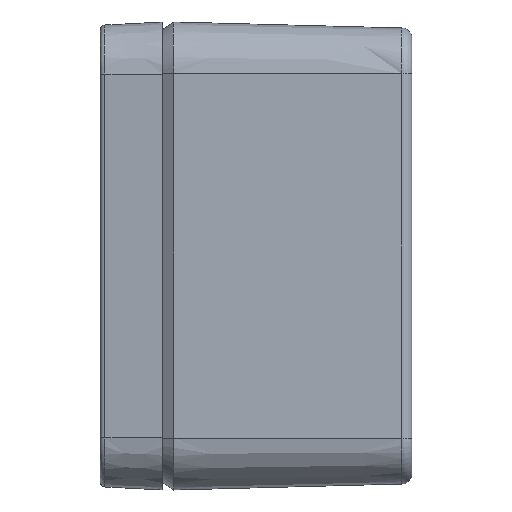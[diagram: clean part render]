
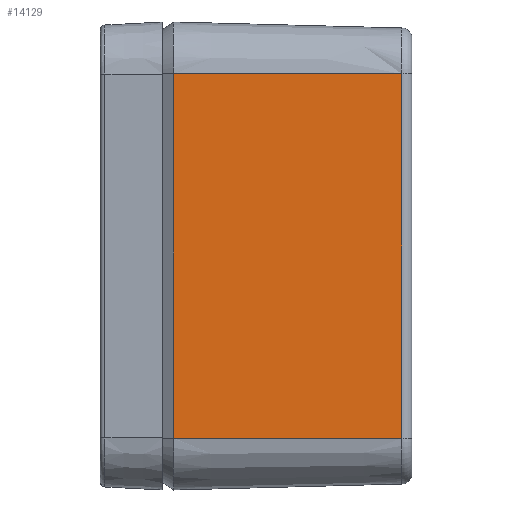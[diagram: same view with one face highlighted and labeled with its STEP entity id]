
A CAD part, left-side view. The second image highlights one B-rep face of the part: STEP entity #14129.
In plain terms, the highlighted planar face has unit normal (-1, -0.026, 0).
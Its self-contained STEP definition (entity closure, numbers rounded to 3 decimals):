
#100 = CARTESIAN_POINT ( 'NONE',  ( -25.003, 0.108, -17.505 ) ) ;
#286 = LINE ( 'NONE', #17195, #13558 ) ;
#461 = CARTESIAN_POINT ( 'NONE',  ( -25.003, 0.108, -17.505 ) ) ;
#547 = CARTESIAN_POINT ( 'NONE',  ( -24.428, -21.826, 5.836 ) ) ;
#1843 = CARTESIAN_POINT ( 'NONE',  ( -24.428, -21.826, -5.836 ) ) ;
#2074 = EDGE_LOOP ( 'NONE', ( #15920, #13915, #18259, #12802 ) ) ;
#3034 = VERTEX_POINT ( 'NONE', #100 ) ;
#3725 = CARTESIAN_POINT ( 'NONE',  ( -24.428, -21.826, -17.507 ) ) ;
#3875 = CARTESIAN_POINT ( 'NONE',  ( -24.62, -14.515, 17.507 ) ) ;
#4021 = EDGE_CURVE ( 'NONE', #4899, #8316, #4869, .T. ) ;
#4511 = DIRECTION ( 'NONE',  ( 0.026, -1., 0. ) ) ;
#4522 = DIRECTION ( 'NONE',  ( 0., 0., -1. ) ) ;
#4869 = B_SPLINE_CURVE_WITH_KNOTS ( 'NONE', 3,
 ( #10995, #16637, #3875, #12477 ),
 .UNSPECIFIED., .F., .F.,
 ( 4, 4 ),
 ( 0., 1. ),
 .UNSPECIFIED. ) ;
#4899 = VERTEX_POINT ( 'NONE', #6200 ) ;
#4982 = AXIS2_PLACEMENT_3D ( 'NONE', #5563, #15278, #6862 ) ;
#5563 = CARTESIAN_POINT ( 'NONE',  ( -25., 0., -22.575 ) ) ;
#6200 = CARTESIAN_POINT ( 'NONE',  ( -25.003, 0.108, 17.505 ) ) ;
#6237 = B_SPLINE_CURVE_WITH_KNOTS ( 'NONE', 3,
 ( #7562, #547, #1843, #7474 ),
 .UNSPECIFIED., .F., .F.,
 ( 4, 4 ),
 ( 0., 1. ),
 .UNSPECIFIED. ) ;
#6862 = DIRECTION ( 'NONE',  ( 0.026, -1., 0. ) ) ;
#7469 = LINE ( 'NONE', #461, #7717 ) ;
#7474 = CARTESIAN_POINT ( 'NONE',  ( -24.428, -21.826, -17.507 ) ) ;
#7562 = CARTESIAN_POINT ( 'NONE',  ( -24.428, -21.826, 17.507 ) ) ;
#7717 = VECTOR ( 'NONE', #4511, 1000. ) ;
#8316 = VERTEX_POINT ( 'NONE', #15711 ) ;
#8347 = PLANE ( 'NONE',  #4982 ) ;
#10995 = CARTESIAN_POINT ( 'NONE',  ( -25.003, 0.108, 17.505 ) ) ;
#12065 = EDGE_CURVE ( 'NONE', #3034, #17718, #7469, .T. ) ;
#12477 = CARTESIAN_POINT ( 'NONE',  ( -24.428, -21.826, 17.507 ) ) ;
#12689 = FACE_OUTER_BOUND ( 'NONE', #2074, .T. ) ;
#12802 = ORIENTED_EDGE ( 'NONE', *, *, #4021, .F. ) ;
#13558 = VECTOR ( 'NONE', #4522, 1000. ) ;
#13915 = ORIENTED_EDGE ( 'NONE', *, *, #12065, .T. ) ;
#14129 = ADVANCED_FACE ( 'NONE', ( #12689 ), #8347, .T. ) ;
#14675 = EDGE_CURVE ( 'NONE', #4899, #3034, #286, .T. ) ;
#15278 = DIRECTION ( 'NONE',  ( -1., -0.026, 0. ) ) ;
#15711 = CARTESIAN_POINT ( 'NONE',  ( -24.428, -21.826, 17.507 ) ) ;
#15920 = ORIENTED_EDGE ( 'NONE', *, *, #14675, .T. ) ;
#16637 = CARTESIAN_POINT ( 'NONE',  ( -24.811, -7.203, 17.506 ) ) ;
#17195 = CARTESIAN_POINT ( 'NONE',  ( -25.003, 0.108, -22.575 ) ) ;
#17718 = VERTEX_POINT ( 'NONE', #3725 ) ;
#18137 = EDGE_CURVE ( 'NONE', #8316, #17718, #6237, .T. ) ;
#18259 = ORIENTED_EDGE ( 'NONE', *, *, #18137, .F. ) ;
